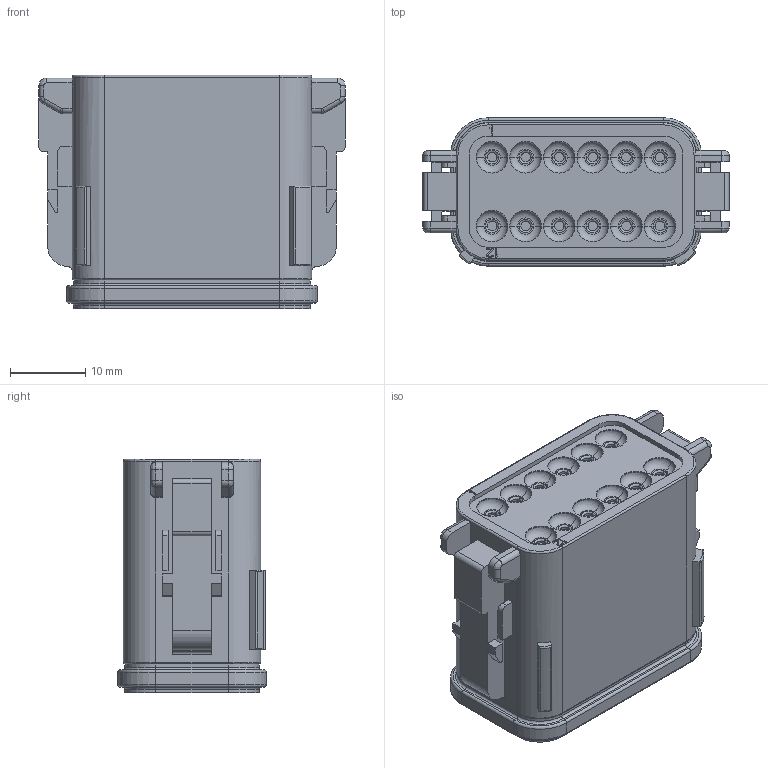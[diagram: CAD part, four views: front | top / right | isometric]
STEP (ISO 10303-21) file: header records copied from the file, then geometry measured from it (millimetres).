
FILE_DESCRIPTION((''),'2;1');
FILE_NAME('C-DT06-12SA','2012-11-15T',('workeradm'),('Tyco Electronics Ltd.'),'PRO/ENGINEER BY PARAMETRIC TECHNOLOGY CORPORATION, 2010430','PRO/ENGINEER BY PARAMETRIC TECHNOLOGY CORPORATION, 2010430','');
FILE_SCHEMA(('AUTOMOTIVE_DESIGN { 1 0 10303 214 1 1 1 1 }'));
Length unit declared in the file: millimetre
Products named in the file (1): C-DT06-12SA
Bounding box: 40.56 x 19.66 x 30.94 mm (x, y, z)
Volume: 14379.3 mm3; surface area: 7521.9 mm2
Topology: 1 solids, 1 shells, 649 faces, 1680 edges, 1072 vertices
Faces by surface type: plane 358, cylinder 203, torus 76, bspline 12
Entity records: 25274 total; most frequent: CARTESIAN_POINT 3703, DIRECTION 3456, ORIENTED_EDGE 3360, PRESENTATION_STYLE_ASSIGNMENT 1681, STYLED_ITEM 1681, CURVE_STYLE 1680, EDGE_CURVE 1680, AXIS2_PLACEMENT_3D 1163
